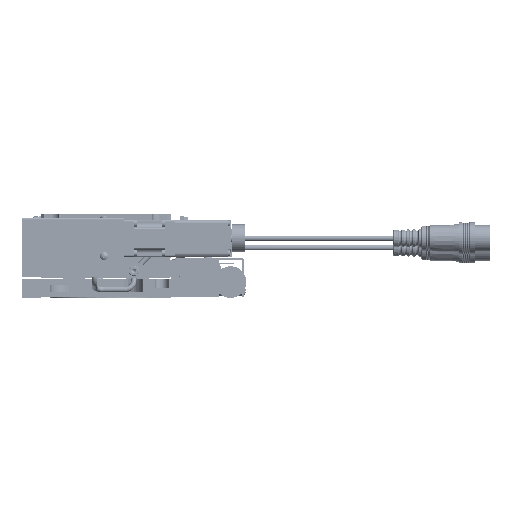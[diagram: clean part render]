
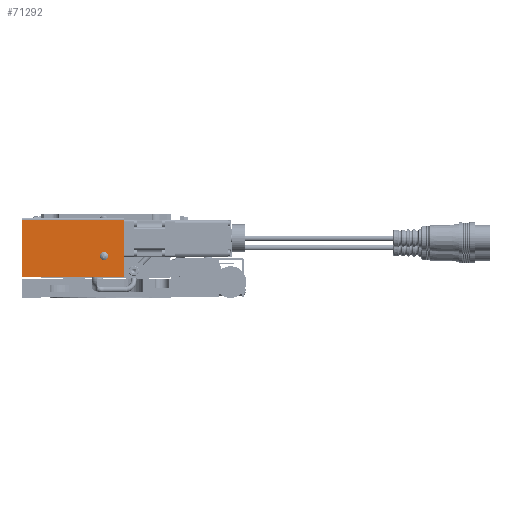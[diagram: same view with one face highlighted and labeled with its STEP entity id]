
A CAD part, left-side view. The second image highlights one B-rep face of the part: STEP entity #71292.
In plain terms, the highlighted planar face has unit normal (-1, 0, 0) as drawn and (0, 1, 0) by its records, which use the part's own axes.
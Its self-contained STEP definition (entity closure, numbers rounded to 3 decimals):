
#13 = CARTESIAN_POINT ( 'NONE',  ( -1.25, 71., -5.5 ) ) ;
#457 = CARTESIAN_POINT ( 'NONE',  ( -10., 71., -17. ) ) ;
#463 = CARTESIAN_POINT ( 'NONE',  ( -10., 71., 14. ) ) ;
#12773 = CARTESIAN_POINT ( 'NONE',  ( -10., 71., -17. ) ) ;
#12780 = LINE ( 'NONE', #12773, #113637 ) ;
#12796 = DIRECTION ( 'NONE',  ( 0., 0., 1. ) ) ;
#22974 = AXIS2_PLACEMENT_3D ( 'NONE', #25181, #25179, #25186 ) ;
#24009 = CIRCLE ( 'NONE', #24016, 2.25 ) ;
#24014 = VECTOR ( 'NONE', #28105, 1000. ) ;
#24016 = AXIS2_PLACEMENT_3D ( 'NONE', #28102, #28103, #28104 ) ;
#24018 = VECTOR ( 'NONE', #28108, 1000. ) ;
#24020 = VECTOR ( 'NONE', #28111, 1000. ) ;
#25176 = FACE_OUTER_BOUND ( 'NONE', #73748, .T. ) ;
#25179 = DIRECTION ( 'NONE',  ( 0., 1., 0. ) ) ;
#25181 = CARTESIAN_POINT ( 'NONE',  ( 45., 71., -17. ) ) ;
#25182 = FACE_BOUND ( 'NONE', #73760, .T. ) ;
#25184 = PLANE ( 'NONE',  #22974 ) ;
#25186 = DIRECTION ( 'NONE',  ( 0., 0., 1. ) ) ;
#26704 = CARTESIAN_POINT ( 'NONE',  ( 45., 71., -17. ) ) ;
#26723 = CARTESIAN_POINT ( 'NONE',  ( 45., 71., 14. ) ) ;
#28095 = LINE ( 'NONE', #28096, #24014 ) ;
#28096 = CARTESIAN_POINT ( 'NONE',  ( 45., 71., 14. ) ) ;
#28102 = CARTESIAN_POINT ( 'NONE',  ( 1., 71., -5.5 ) ) ;
#28103 = DIRECTION ( 'NONE',  ( 0., 1., 0. ) ) ;
#28104 = DIRECTION ( 'NONE',  ( -1., 0., 0. ) ) ;
#28105 = DIRECTION ( 'NONE',  ( 1., 0., 0. ) ) ;
#28106 = LINE ( 'NONE', #28107, #24018 ) ;
#28107 = CARTESIAN_POINT ( 'NONE',  ( 45., 71., -17. ) ) ;
#28108 = DIRECTION ( 'NONE',  ( 0., 0., 1. ) ) ;
#28109 = LINE ( 'NONE', #28110, #24020 ) ;
#28110 = CARTESIAN_POINT ( 'NONE',  ( 45., 71., -17. ) ) ;
#28111 = DIRECTION ( 'NONE',  ( -1., 0., 0. ) ) ;
#50873 = EDGE_CURVE ( 'NONE', #68804, #68791, #77964, .T. ) ;
#68791 = VERTEX_POINT ( 'NONE', #114811 ) ;
#68804 = VERTEX_POINT ( 'NONE', #13 ) ;
#69248 = VERTEX_POINT ( 'NONE', #457 ) ;
#69254 = VERTEX_POINT ( 'NONE', #463 ) ;
#70159 = EDGE_CURVE ( 'NONE', #69248, #69254, #12780, .T. ) ;
#71292 = ADVANCED_FACE ( 'NONE', ( #25182, #25176 ), #25184, .T. ) ;
#73748 = EDGE_LOOP ( 'NONE', ( #79392, #79394, #79395, #79397 ) ) ;
#73760 = EDGE_LOOP ( 'NONE', ( #79388, #79390 ) ) ;
#75475 = CARTESIAN_POINT ( 'NONE',  ( 1., 71., -5.5 ) ) ;
#75885 = VERTEX_POINT ( 'NONE', #26704 ) ;
#75904 = VERTEX_POINT ( 'NONE', #26723 ) ;
#77964 = CIRCLE ( 'NONE', #77967, 2.25 ) ;
#77967 = AXIS2_PLACEMENT_3D ( 'NONE', #75475, #80162, #80163 ) ;
#79388 = ORIENTED_EDGE ( 'NONE', *, *, #50873, .F. ) ;
#79390 = ORIENTED_EDGE ( 'NONE', *, *, #81082, .F. ) ;
#79392 = ORIENTED_EDGE ( 'NONE', *, *, #70159, .T. ) ;
#79394 = ORIENTED_EDGE ( 'NONE', *, *, #81085, .T. ) ;
#79395 = ORIENTED_EDGE ( 'NONE', *, *, #81087, .F. ) ;
#79397 = ORIENTED_EDGE ( 'NONE', *, *, #81089, .T. ) ;
#80162 = DIRECTION ( 'NONE',  ( 0., 1., 0. ) ) ;
#80163 = DIRECTION ( 'NONE',  ( -1., 0., 0. ) ) ;
#81082 = EDGE_CURVE ( 'NONE', #68791, #68804, #24009, .T. ) ;
#81085 = EDGE_CURVE ( 'NONE', #69254, #75904, #28095, .T. ) ;
#81087 = EDGE_CURVE ( 'NONE', #75885, #75904, #28106, .T. ) ;
#81089 = EDGE_CURVE ( 'NONE', #75885, #69248, #28109, .T. ) ;
#113637 = VECTOR ( 'NONE', #12796, 1000. ) ;
#114811 = CARTESIAN_POINT ( 'NONE',  ( 3.25, 71., -5.5 ) ) ;
